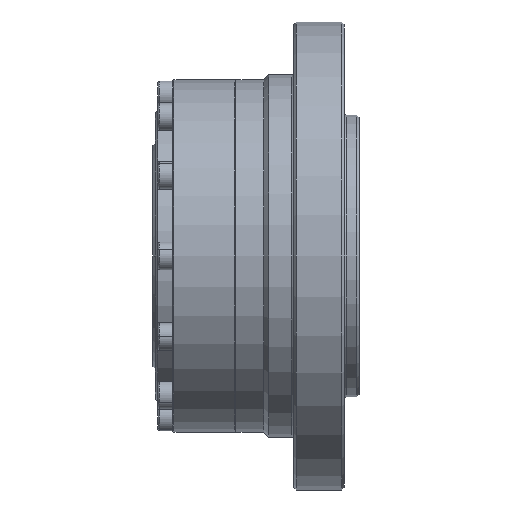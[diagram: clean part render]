
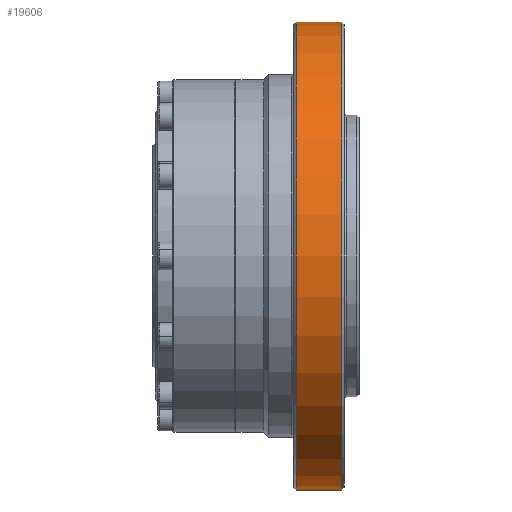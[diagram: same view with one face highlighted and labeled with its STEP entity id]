
A CAD part, front view. The second image highlights one B-rep face of the part: STEP entity #19606.
In plain terms, the highlighted cylindrical face has radius 46.5 mm (diameter 93 mm), a partial arc.
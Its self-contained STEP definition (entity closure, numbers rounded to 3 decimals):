
#316 = CIRCLE ( 'NONE', #12489, 46.5 ) ;
#1307 = VERTEX_POINT ( 'NONE', #14673 ) ;
#1544 = VERTEX_POINT ( 'NONE', #15509 ) ;
#1712 = VERTEX_POINT ( 'NONE', #21329 ) ;
#2015 = DIRECTION ( 'NONE',  ( -1., 0., 0. ) ) ;
#2379 = EDGE_LOOP ( 'NONE', ( #18443, #5801, #12911, #5672 ) ) ;
#2470 = CIRCLE ( 'NONE', #8452, 46.5 ) ;
#2764 = EDGE_CURVE ( 'NONE', #1307, #1544, #2470, .T. ) ;
#2866 = CARTESIAN_POINT ( 'NONE',  ( 23.2, 0., 0. ) ) ;
#3606 = CARTESIAN_POINT ( 'NONE',  ( -16.462, 0., -46.5 ) ) ;
#3637 = CYLINDRICAL_SURFACE ( 'NONE', #13520, 46.5 ) ;
#4163 = FACE_OUTER_BOUND ( 'NONE', #2379, .T. ) ;
#4577 = DIRECTION ( 'NONE',  ( 0., 0., 1. ) ) ;
#5319 = DIRECTION ( 'NONE',  ( -1., 0., 0. ) ) ;
#5672 = ORIENTED_EDGE ( 'NONE', *, *, #2764, .F. ) ;
#5801 = ORIENTED_EDGE ( 'NONE', *, *, #17216, .T. ) ;
#7604 = CARTESIAN_POINT ( 'NONE',  ( 14.2, 0., 0. ) ) ;
#7858 = CARTESIAN_POINT ( 'NONE',  ( -16.462, 0., 46.5 ) ) ;
#8452 = AXIS2_PLACEMENT_3D ( 'NONE', #7604, #2015, #16669 ) ;
#10020 = CARTESIAN_POINT ( 'NONE',  ( 23.2, 0., -46.5 ) ) ;
#11825 = LINE ( 'NONE', #7858, #15795 ) ;
#12059 = VERTEX_POINT ( 'NONE', #10020 ) ;
#12489 = AXIS2_PLACEMENT_3D ( 'NONE', #2866, #14687, #4577 ) ;
#12504 = CARTESIAN_POINT ( 'NONE',  ( -16.462, 0., 0. ) ) ;
#12911 = ORIENTED_EDGE ( 'NONE', *, *, #14759, .T. ) ;
#13520 = AXIS2_PLACEMENT_3D ( 'NONE', #12504, #17712, #19452 ) ;
#14673 = CARTESIAN_POINT ( 'NONE',  ( 14.2, 0., -46.5 ) ) ;
#14687 = DIRECTION ( 'NONE',  ( -1., 0., 0. ) ) ;
#14759 = EDGE_CURVE ( 'NONE', #1712, #1544, #11825, .T. ) ;
#14832 = VECTOR ( 'NONE', #5319, 1000. ) ;
#15509 = CARTESIAN_POINT ( 'NONE',  ( 14.2, 0., 46.5 ) ) ;
#15795 = VECTOR ( 'NONE', #21456, 1000. ) ;
#16669 = DIRECTION ( 'NONE',  ( 0., 0., 1. ) ) ;
#17216 = EDGE_CURVE ( 'NONE', #12059, #1712, #316, .T. ) ;
#17497 = EDGE_CURVE ( 'NONE', #12059, #1307, #21011, .T. ) ;
#17712 = DIRECTION ( 'NONE',  ( -1., 0., 0. ) ) ;
#18443 = ORIENTED_EDGE ( 'NONE', *, *, #17497, .F. ) ;
#19452 = DIRECTION ( 'NONE',  ( 0., 0., 1. ) ) ;
#19606 = ADVANCED_FACE ( 'NONE', ( #4163 ), #3637, .T. ) ;
#21011 = LINE ( 'NONE', #3606, #14832 ) ;
#21329 = CARTESIAN_POINT ( 'NONE',  ( 23.2, 0., 46.5 ) ) ;
#21456 = DIRECTION ( 'NONE',  ( -1., 0., 0. ) ) ;
